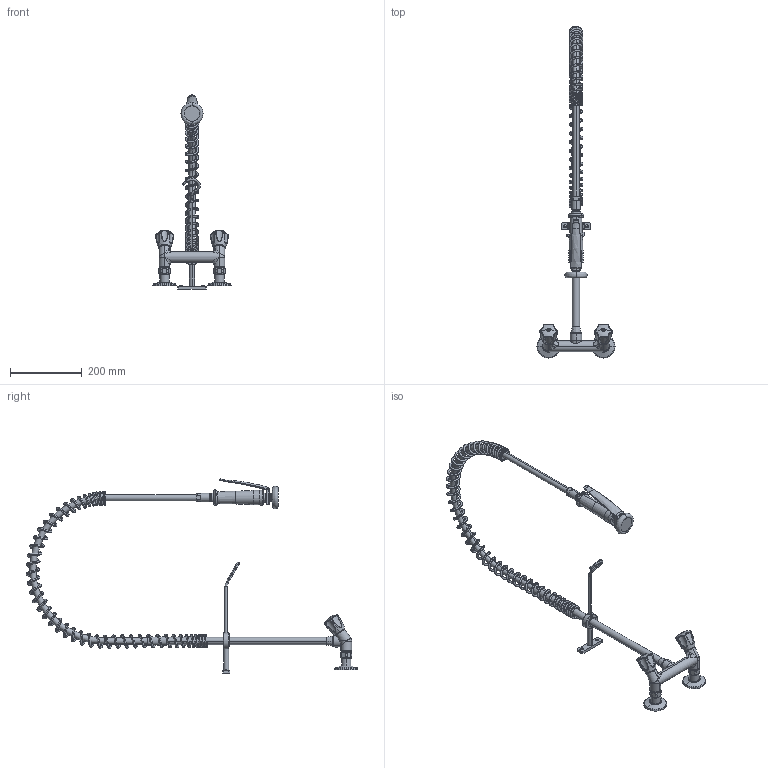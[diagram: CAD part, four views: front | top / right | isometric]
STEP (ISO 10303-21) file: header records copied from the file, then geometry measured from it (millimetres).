
FILE_DESCRIPTION((''),'2;1');
FILE_NAME('K_24_42_70_000C78','2012-01-06T',('HEF'),(''),'PRO/ENGINEER BY PARAMETRIC TECHNOLOGY CORPORATION, 2011080','PRO/ENGINEER BY PARAMETRIC TECHNOLOGY CORPORATION, 2011080','');
FILE_SCHEMA(('AUTOMOTIVE_DESIGN_CC2 { 1 2 10303 214 -1 1 5 2 }'));
Products named in the file (1): K_24_42_70_000C78
Bounding box: 218 x 925.77 x 541.45 mm (x, y, z)
Volume: 1242504.6 mm3; surface area: 301665.1 mm2
Topology: 3 solids, 6 shells, 907 faces, 2072 edges, 1207 vertices
Faces by surface type: bspline 237, plane 225, cylinder 188, torus 148, sphere 50, cone 49, revolution 6, extrusion 4
Entity records: 82888 total; most frequent: CARTESIAN_POINT 55910, ORIENTED_EDGE 4132, DIRECTION 3508, EDGE_CURVE 2066, AXIS2_PLACEMENT_3D 1463, FILL_AREA_STYLE_COLOUR 1286, FILL_AREA_STYLE 1286, SURFACE_STYLE_FILL_AREA 1286
